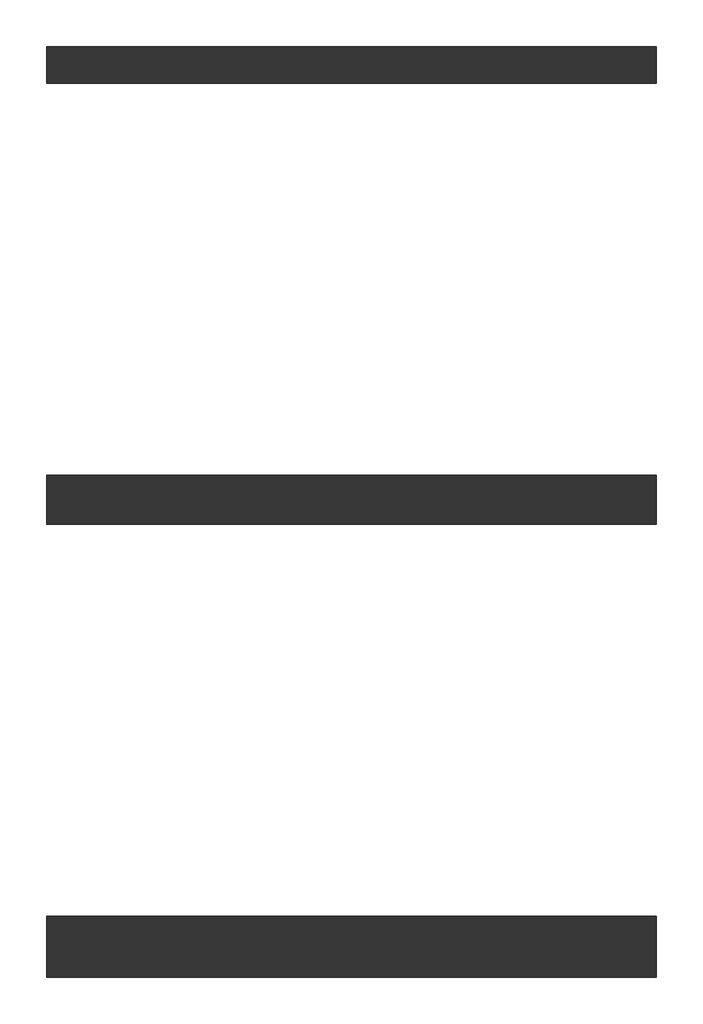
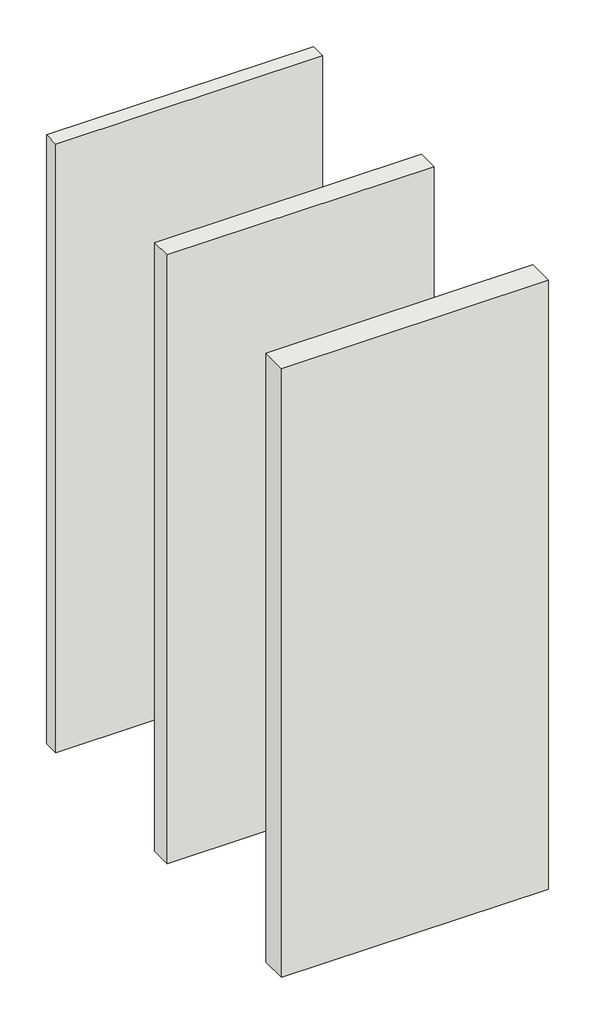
# One storey: 3 walls.
"""IFC4 building model written with IfcOpenShell, lengths in millimetres."""

from ifc_helpers import new_model, si_unit, origin, origin_with_axes, place, context, project, spatial, polyline, outline, extrude, element, save

model = new_model("IFC4")

# Units and contexts
model_context = context("Model", 3, world=origin())
ifc_project = project(units=[si_unit("LENGTHUNIT", "METRE", prefix="MILLI")], contexts=[model_context])

# Site, building, storey
site = spatial("IfcSite", under=ifc_project)
building = spatial("IfcBuilding", under=site)
storey = spatial("IfcBuildingStorey", under=building, Name="Уровень 1", Elevation=0.0)

# Walls
placement = place(None, origin())
element("IfcWall", 1, ObjectType="Перегородка-КНАУФ-С361-Применение внутри здания-75/50@600 ГВЛ(ГВЛВ)  12,5", at=placement, inside=storey, context=model_context, shape_type="SweptSolid", body=[
    extrude(outline(polyline([(-9315.7236634, 13509.2035262), (-10560.2640717, 13509.2035262), (-10560.2640717, 13584.2035262), (-9315.7236634, 13584.2035262), (-9315.7236634, 13509.2035262)])), origin_with_axes(), (0.0, 0.0, 1.0), 3000.0),
])
element("IfcWall", 2, ObjectType="Перегородка-КНАУФ-С361-Применение внутри здания-100/75@600 ГВЛ(ГВЛВ)  12,5", at=placement, inside=storey, context=model_context, shape_type="SweptSolid", body=[
    extrude(outline(polyline([(-9315.7236634, 12609.2035262), (-10560.2640717, 12609.2035262), (-10560.2640717, 12709.2035262), (-9315.7236634, 12709.2035262), (-9315.7236634, 12609.2035262)])), origin_with_axes(), (0.0, 0.0, 1.0), 3000.0),
])
element("IfcWall", 3, ObjectType="Перегородка-КНАУФ-С361-Применение внутри здания-125/100@600 ГВЛ(ГВЛВ)  12,5", at=placement, inside=storey, context=model_context, shape_type="SweptSolid", body=[
    extrude(outline(polyline([(-9315.7236634, 11684.2035262), (-10560.2640717, 11684.2035262), (-10560.2640717, 11809.2035262), (-9315.7236634, 11809.2035262), (-9315.7236634, 11684.2035262)])), origin_with_axes(), (0.0, 0.0, 1.0), 3000.0),
])

save(model, "model.ifc")
